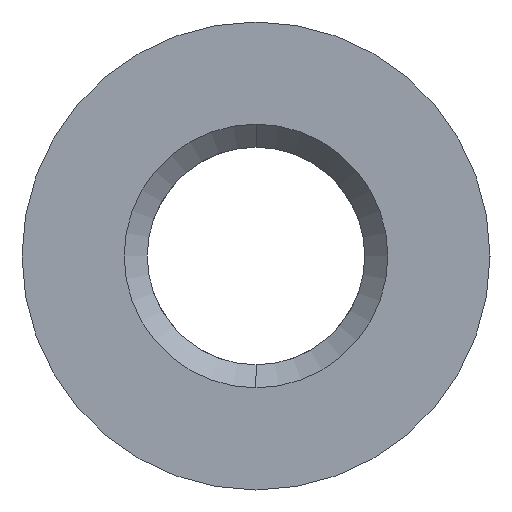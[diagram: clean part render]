
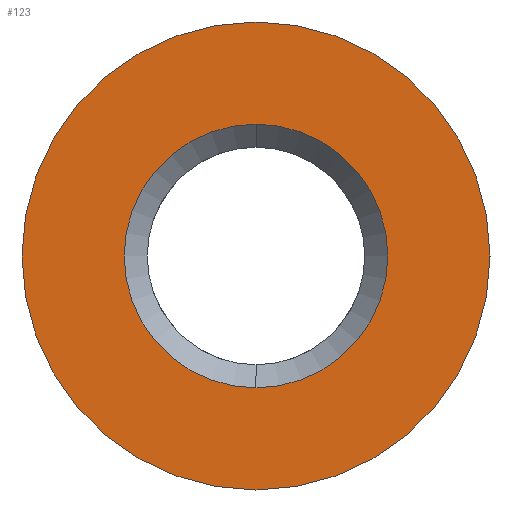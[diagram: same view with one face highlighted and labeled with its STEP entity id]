
A CAD part, left-side view. The second image highlights one B-rep face of the part: STEP entity #123.
In plain terms, the highlighted planar face has unit normal (-1, 0, 0).
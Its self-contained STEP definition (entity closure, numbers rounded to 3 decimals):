
#3 = DIRECTION ( 'NONE',  ( 0., 0., 1. ) ) ;
#34 = DIRECTION ( 'NONE',  ( -1., 0., 0. ) ) ;
#57 = AXIS2_PLACEMENT_3D ( 'NONE', #162, #355, #620 ) ;
#62 = DIRECTION ( 'NONE',  ( 1., 0., 0. ) ) ;
#66 = CIRCLE ( 'NONE', #82, 2. ) ;
#68 = CARTESIAN_POINT ( 'NONE',  ( -7.9, 0., 0. ) ) ;
#82 = AXIS2_PLACEMENT_3D ( 'NONE', #567, #624, #220 ) ;
#108 = EDGE_CURVE ( 'NONE', #641, #293, #540, .T. ) ;
#123 = ADVANCED_FACE ( 'NONE', ( #406, #662 ), #700, .T. ) ;
#124 = EDGE_LOOP ( 'NONE', ( #196, #189 ) ) ;
#131 = CARTESIAN_POINT ( 'NONE',  ( -7.9, 0., 0. ) ) ;
#162 = CARTESIAN_POINT ( 'NONE',  ( -7.9, 0., 0. ) ) ;
#170 = CARTESIAN_POINT ( 'NONE',  ( -7.9, 1.65, 0. ) ) ;
#189 = ORIENTED_EDGE ( 'NONE', *, *, #248, .T. ) ;
#196 = ORIENTED_EDGE ( 'NONE', *, *, #108, .T. ) ;
#220 = DIRECTION ( 'NONE',  ( 0., 0., 1. ) ) ;
#223 = VERTEX_POINT ( 'NONE', #638 ) ;
#248 = EDGE_CURVE ( 'NONE', #293, #641, #271, .T. ) ;
#271 = CIRCLE ( 'NONE', #57, 3.55 ) ;
#293 = VERTEX_POINT ( 'NONE', #835 ) ;
#300 = AXIS2_PLACEMENT_3D ( 'NONE', #131, #62, #393 ) ;
#332 = DIRECTION ( 'NONE',  ( -1., 0., 0. ) ) ;
#344 = AXIS2_PLACEMENT_3D ( 'NONE', #170, #34, #759 ) ;
#355 = DIRECTION ( 'NONE',  ( -1., 0., 0. ) ) ;
#373 = EDGE_CURVE ( 'NONE', #223, #749, #635, .T. ) ;
#392 = AXIS2_PLACEMENT_3D ( 'NONE', #68, #332, #3 ) ;
#393 = DIRECTION ( 'NONE',  ( 0., 0., 1. ) ) ;
#406 = FACE_BOUND ( 'NONE', #563, .T. ) ;
#540 = CIRCLE ( 'NONE', #392, 3.55 ) ;
#563 = EDGE_LOOP ( 'NONE', ( #725, #619 ) ) ;
#567 = CARTESIAN_POINT ( 'NONE',  ( -7.9, 0., 0. ) ) ;
#594 = EDGE_CURVE ( 'NONE', #749, #223, #66, .T. ) ;
#619 = ORIENTED_EDGE ( 'NONE', *, *, #594, .T. ) ;
#620 = DIRECTION ( 'NONE',  ( 0., 0., 1. ) ) ;
#624 = DIRECTION ( 'NONE',  ( 1., 0., 0. ) ) ;
#635 = CIRCLE ( 'NONE', #300, 2. ) ;
#638 = CARTESIAN_POINT ( 'NONE',  ( -7.9, 0., 2. ) ) ;
#641 = VERTEX_POINT ( 'NONE', #695 ) ;
#662 = FACE_OUTER_BOUND ( 'NONE', #124, .T. ) ;
#695 = CARTESIAN_POINT ( 'NONE',  ( -7.9, 0., 3.55 ) ) ;
#700 = PLANE ( 'NONE',  #344 ) ;
#703 = CARTESIAN_POINT ( 'NONE',  ( -7.9, 0., -2. ) ) ;
#725 = ORIENTED_EDGE ( 'NONE', *, *, #373, .T. ) ;
#749 = VERTEX_POINT ( 'NONE', #703 ) ;
#759 = DIRECTION ( 'NONE',  ( 0., 0., 1. ) ) ;
#835 = CARTESIAN_POINT ( 'NONE',  ( -7.9, 0., -3.55 ) ) ;
